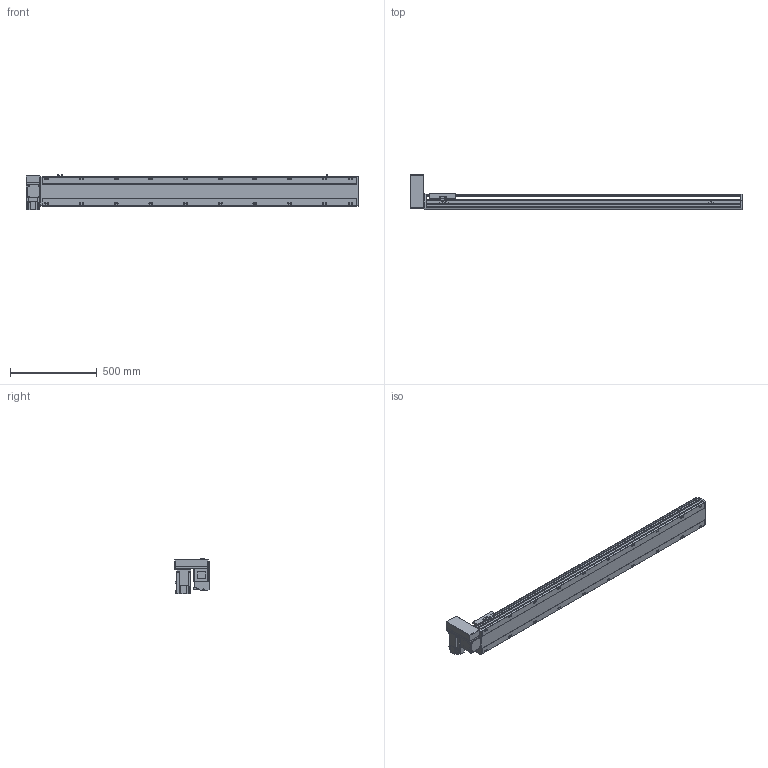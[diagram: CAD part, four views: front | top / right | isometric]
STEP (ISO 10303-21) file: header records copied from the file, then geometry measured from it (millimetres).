
FILE_DESCRIPTION( ( 'STEP AP214' ), '1' );
FILE_NAME( 'x:/temp/worker_5/temp/exporttempdir_3988_131_TbYeb/format_0/PBS170-P40-S1550-RU-T75-C1-N(0).stp', '2022-06-08T05:58:50', ( 'License CC BY-ND 4.0' ), ( 'CADENAS' ), ' ', 'PARTsolutions', ' ' );
FILE_SCHEMA( ( 'AUTOMOTIVE_DESIGN { 1 0 10303 214 1 1 1 1 }' ) );
Length unit declared in the file: millimetre
Products named in the file (7): PBS170-P40-S1550-RU-T75-C1-N(0); _PBS170-S1550()_body; _PBS170T-RU_motors; _T75-p1; _PBS170_sliser; _PBS170_plant; _PBS170_sensor
Assembly tree (8 placements, depth 2):
  PBS170-P40-S1550-RU-T75-C1-N(0)
    _PBS170-S1550()_body
    _PBS170T-RU_motors
    _T75-p1
    _PBS170_sliser
    _PBS170_plant
    _PBS170_sensor  x3
Bounding box: 1913 x 206 x 205.3 mm (x, y, z)
Volume: 14909919.6 mm3; surface area: 1912760.8 mm2
Topology: 8 solids, 8 shells, 1114 faces, 2955 edges, 1926 vertices
Faces by surface type: plane 699, cylinder 355, cone 50, sphere 8, torus 2
Full cylindrical faces by diameter (mm): 3.242 x4, 4 x2, 4.4 x4, 4.5 x6, 4.917 x4, 6 x9, 6.647 x28, 7 x2, 7.5 x4, 8 x8, 8.5 x20, 10 x4, 10.5 x20, 11 x2, 30 x2, 40 x1, 70 x1
Entity records: 41024 total; most frequent: CARTESIAN_POINT 6557, DIRECTION 5440, ORIENTED_EDGE 5148, EDGE_CURVE 2574, AXIS2_PLACEMENT_3D 1897, VERTEX_POINT 1778, LINE 1646, VECTOR 1646
